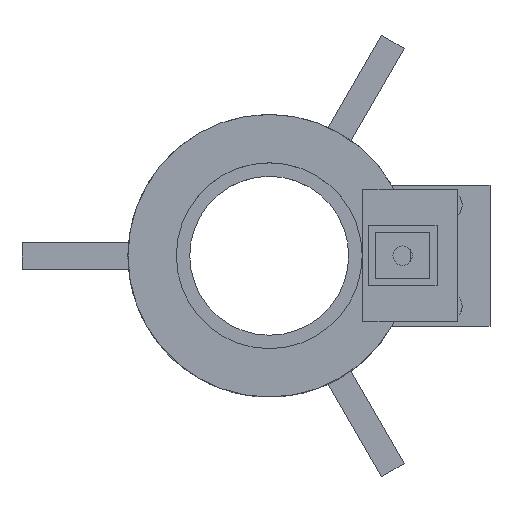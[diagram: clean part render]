
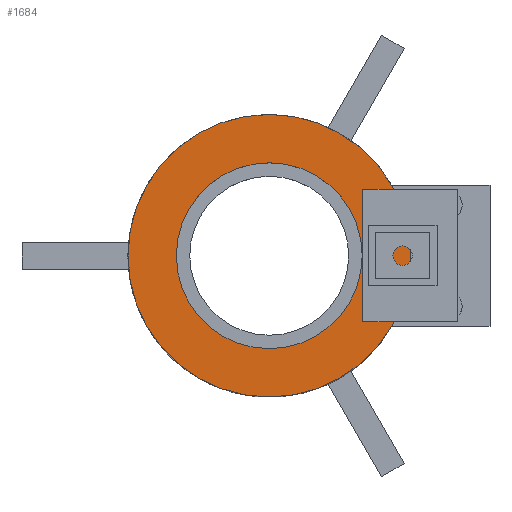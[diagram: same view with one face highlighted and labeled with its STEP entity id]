
A CAD part, top view. The second image highlights one B-rep face of the part: STEP entity #1684.
In plain terms, the highlighted planar face has unit normal (0, 0, 1).
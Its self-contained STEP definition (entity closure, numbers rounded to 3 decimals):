
#253 = CYLINDRICAL_SURFACE('',#254,32.);
#254 = AXIS2_PLACEMENT_3D('',#255,#256,#257);
#255 = CARTESIAN_POINT('',(0.,0.,65.));
#256 = DIRECTION('',(0.,0.,1.));
#257 = DIRECTION('',(1.,0.,-0.));
#921 = VERTEX_POINT('',#922);
#922 = CARTESIAN_POINT('',(32.,0.,104.));
#943 = EDGE_CURVE('',#921,#921,#944,.T.);
#944 = SURFACE_CURVE('',#945,(#950,#957),.PCURVE_S1.);
#945 = CIRCLE('',#946,32.);
#946 = AXIS2_PLACEMENT_3D('',#947,#948,#949);
#947 = CARTESIAN_POINT('',(0.,0.,104.));
#948 = DIRECTION('',(0.,0.,1.));
#949 = DIRECTION('',(1.,0.,-0.));
#950 = PCURVE('',#253,#951);
#951 = DEFINITIONAL_REPRESENTATION('',(#952),#956);
#952 = LINE('',#953,#954);
#953 = CARTESIAN_POINT('',(0.,39.));
#954 = VECTOR('',#955,1.);
#955 = DIRECTION('',(1.,0.));
#956 = ( GEOMETRIC_REPRESENTATION_CONTEXT(2) 
PARAMETRIC_REPRESENTATION_CONTEXT() REPRESENTATION_CONTEXT('2D SPACE',''
  ) );
#957 = PCURVE('',#958,#963);
#958 = PLANE('',#959);
#959 = AXIS2_PLACEMENT_3D('',#960,#961,#962);
#960 = CARTESIAN_POINT('',(0.,0.,104.));
#961 = DIRECTION('',(0.,0.,1.));
#962 = DIRECTION('',(1.,0.,-0.));
#963 = DEFINITIONAL_REPRESENTATION('',(#964),#968);
#964 = CIRCLE('',#965,32.);
#965 = AXIS2_PLACEMENT_2D('',#966,#967);
#966 = CARTESIAN_POINT('',(0.,0.));
#967 = DIRECTION('',(1.,0.));
#968 = ( GEOMETRIC_REPRESENTATION_CONTEXT(2) 
PARAMETRIC_REPRESENTATION_CONTEXT() REPRESENTATION_CONTEXT('2D SPACE',''
  ) );
#1363 = CYLINDRICAL_SURFACE('',#1364,21.05);
#1364 = AXIS2_PLACEMENT_3D('',#1365,#1366,#1367);
#1365 = CARTESIAN_POINT('',(0.,0.,104.));
#1366 = DIRECTION('',(-0.,-0.,-1.));
#1367 = DIRECTION('',(1.,0.,0.));
#1684 = ADVANCED_FACE('',(#1685,#1688),#958,.T.);
#1685 = FACE_BOUND('',#1686,.T.);
#1686 = EDGE_LOOP('',(#1687));
#1687 = ORIENTED_EDGE('',*,*,#943,.T.);
#1688 = FACE_BOUND('',#1689,.T.);
#1689 = EDGE_LOOP('',(#1690));
#1690 = ORIENTED_EDGE('',*,*,#1691,.F.);
#1691 = EDGE_CURVE('',#1692,#1692,#1694,.T.);
#1692 = VERTEX_POINT('',#1693);
#1693 = CARTESIAN_POINT('',(21.05,0.,104.));
#1694 = SURFACE_CURVE('',#1695,(#1700,#1707),.PCURVE_S1.);
#1695 = CIRCLE('',#1696,21.05);
#1696 = AXIS2_PLACEMENT_3D('',#1697,#1698,#1699);
#1697 = CARTESIAN_POINT('',(0.,0.,104.));
#1698 = DIRECTION('',(0.,0.,1.));
#1699 = DIRECTION('',(1.,0.,-0.));
#1700 = PCURVE('',#958,#1701);
#1701 = DEFINITIONAL_REPRESENTATION('',(#1702),#1706);
#1702 = CIRCLE('',#1703,21.05);
#1703 = AXIS2_PLACEMENT_2D('',#1704,#1705);
#1704 = CARTESIAN_POINT('',(0.,0.));
#1705 = DIRECTION('',(1.,0.));
#1706 = ( GEOMETRIC_REPRESENTATION_CONTEXT(2) 
PARAMETRIC_REPRESENTATION_CONTEXT() REPRESENTATION_CONTEXT('2D SPACE',''
  ) );
#1707 = PCURVE('',#1363,#1708);
#1708 = DEFINITIONAL_REPRESENTATION('',(#1709),#1713);
#1709 = LINE('',#1710,#1711);
#1710 = CARTESIAN_POINT('',(-0.,0.));
#1711 = VECTOR('',#1712,1.);
#1712 = DIRECTION('',(-1.,0.));
#1713 = ( GEOMETRIC_REPRESENTATION_CONTEXT(2) 
PARAMETRIC_REPRESENTATION_CONTEXT() REPRESENTATION_CONTEXT('2D SPACE',''
  ) );
